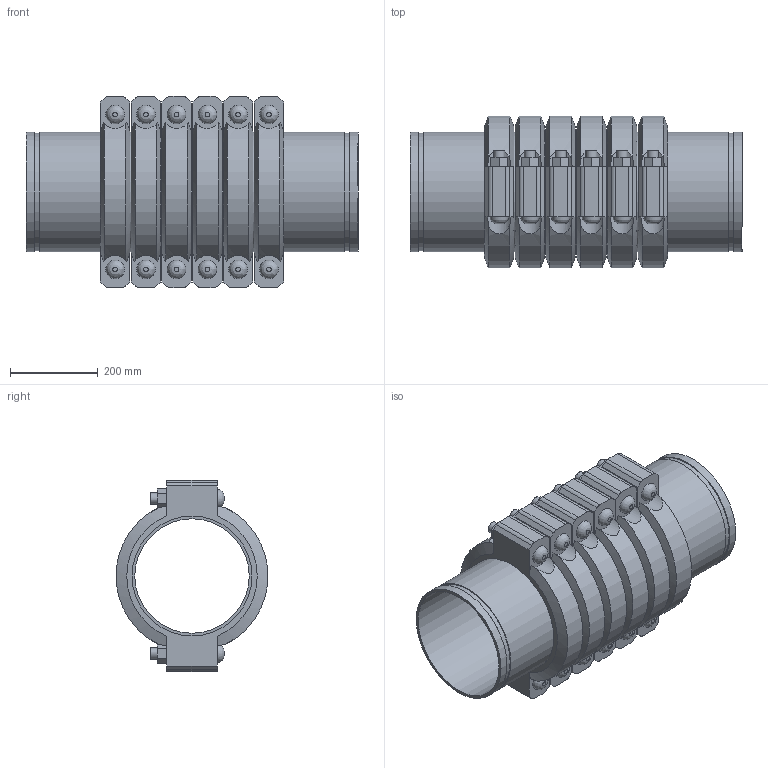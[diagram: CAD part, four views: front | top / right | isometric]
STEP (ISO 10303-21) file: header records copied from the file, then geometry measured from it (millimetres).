
FILE_DESCRIPTION(/* description */ ('VIC EXPANSION JOINT 6 COUPLINGS COMPRESSED STYLE 155 (OGS)','CAx-IF Rec.Pracs.---Representation and Presentation of Product Manufacturing Information (PMI)---4.0---2014-10-13'),/* implementation_level */ '2;1');
FILE_NAME(/* name */ 'C:\Users\kkamble\AppData\Roaming\Autodesk\ApplicationPlugins\Victaulic.Temp\A354\Victaulic_IPS_Expansion Joint_Compressed_6 Couplings_Style 155 (OGS)_10 (250).stp',/* time_stamp */ '2021-06-27T00:32:20+02:00',/* author */ ('kkamble'),/* organization */ ('Victaulic'),/* preprocessor_version */ 'ST-DEVELOPER v17.2',/* originating_system */ 'Autodesk Inventor 2019',/* authorisation */ '');
FILE_SCHEMA (('AP242_MANAGED_MODEL_BASED_3D_ENGINEERING_MIM_LF { 1 0 10303 442 1 1 4 }'));
Length unit declared in the file: inch
Products named in the file (4): 155-10.0; Nipple-10.0; Nipple-10.0_1; 077-6 Coup-10.0
Assembly tree (13 placements, depth 2):
  155-10.0
    Nipple-10.0  x2
    Nipple-10.0_1  x5
    077-6 Coup-10.0  x6
Bounding box: 755.65 x 344.9 x 435.1 mm (x, y, z)
Volume: 21181848 mm3; surface area: 3067403.5 mm2
Topology: 13 solids, 25 shells, 450 faces, 1080 edges, 756 vertices
Faces by surface type: plane 258, cylinder 156, cone 24, bspline 12
Full cylindrical faces by diameter (mm): 25.4 x24, 27.432 x12, 260.35 x7, 264.16 x6, 268.275 x14, 273.05 x33
Entity records: 3098 total; most frequent: CARTESIAN_POINT 677, DIRECTION 481, ORIENTED_EDGE 410, EDGE_CURVE 205, AXIS2_PLACEMENT_3D 196, VERTEX_POINT 146, EDGE_LOOP 111, CIRCLE 96
